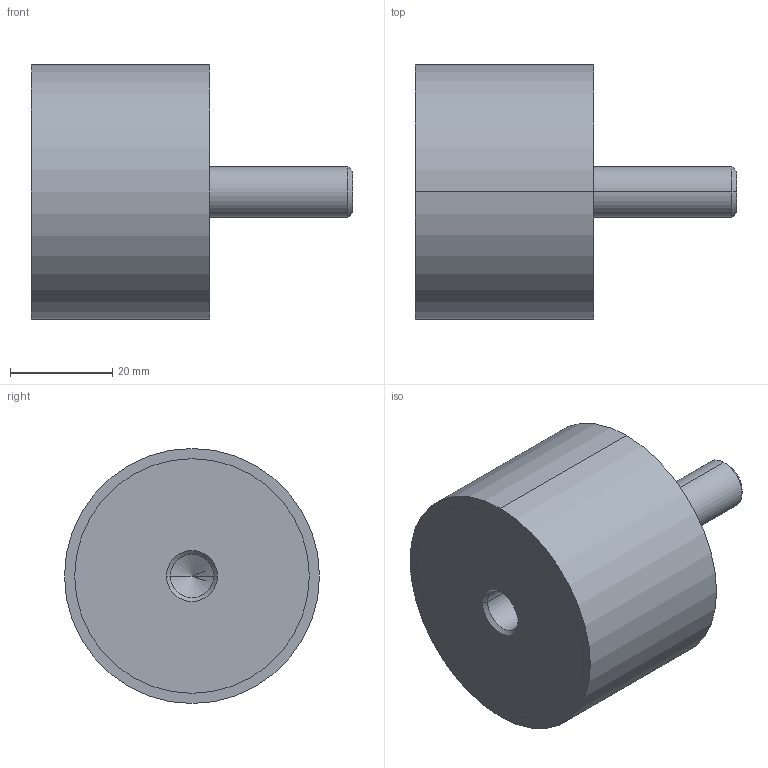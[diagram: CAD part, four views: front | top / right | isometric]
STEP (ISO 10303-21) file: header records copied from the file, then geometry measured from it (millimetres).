
FILE_DESCRIPTION (( 'STEP AP214' ), '1' );
FILE_NAME ('351-50-35-M10-ES-55.step', '2025-07-23T09:50:56', ( '' ), ( '' ), 'SwSTEP 2.0', 'SolidWorks 2022', '' );
FILE_SCHEMA (( 'AUTOMOTIVE_DESIGN' ));
Length unit declared in the file: millimetre
Products named in the file (1): 351-50-35-M10-ES-55
Bounding box: 63 x 50 x 50 mm (x, y, z)
Volume: 70188.5 mm3; surface area: 10585 mm2
Topology: 1 solids, 1 shells, 24 faces, 48 edges, 29 vertices
Faces by surface type: cylinder 12, cone 6, plane 6
Entity records: 740 total; most frequent: DIRECTION 124, CARTESIAN_POINT 100, ORIENTED_EDGE 92, AXIS2_PLACEMENT_3D 53, EDGE_CURVE 46, EDGE_LOOP 29, VERTEX_POINT 29, CIRCLE 28
